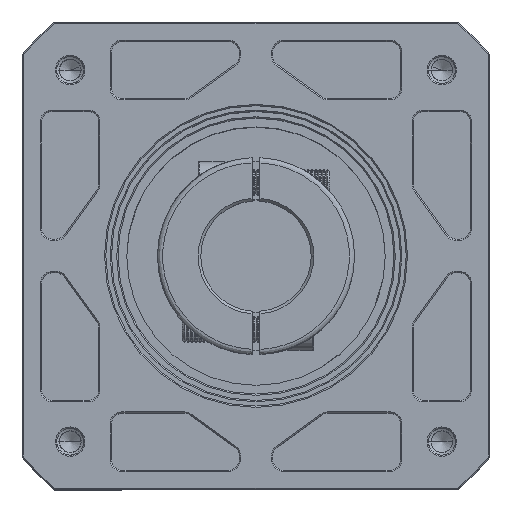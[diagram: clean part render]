
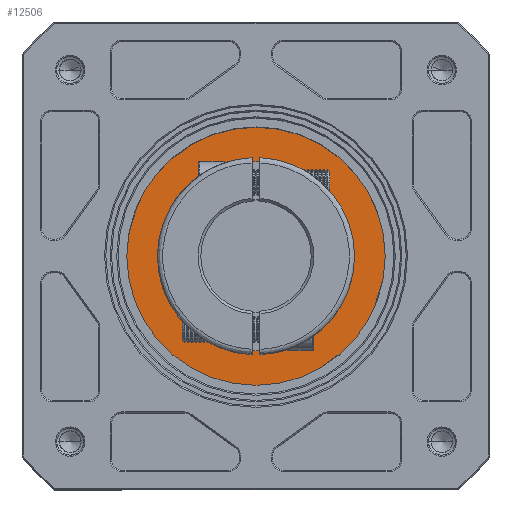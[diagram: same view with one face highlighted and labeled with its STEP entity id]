
A CAD part, top view. The second image highlights one B-rep face of the part: STEP entity #12506.
In plain terms, the highlighted planar face has unit normal (0, 0, 1).
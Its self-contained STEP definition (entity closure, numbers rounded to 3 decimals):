
#591 = FACE_OUTER_BOUND ( 'NONE', #7755, .T. ) ;
#1817 = CARTESIAN_POINT ( 'NONE',  ( -332.693, 63.027, -91.628 ) ) ;
#6933 = CARTESIAN_POINT ( 'NONE',  ( -262.693, 21.287, -91.628 ) ) ;
#7755 = EDGE_LOOP ( 'NONE', ( #113657, #30312, #103494, #24162, #75287, #79747, #111543, #86148 ) ) ;
#10920 = DIRECTION ( 'NONE',  ( -1., 0., 0. ) ) ;
#12506 = ADVANCED_FACE ( 'NONE', ( #591 ), #130608, .T. ) ;
#15803 = CARTESIAN_POINT ( 'NONE',  ( -262.693, 21.287, -91.628 ) ) ;
#19352 = DIRECTION ( 'NONE',  ( -1., 0., 0. ) ) ;
#19771 = CARTESIAN_POINT ( 'NONE',  ( -220.952, 91.287, -91.628 ) ) ;
#22932 = VERTEX_POINT ( 'NONE', #19771 ) ;
#23004 = CARTESIAN_POINT ( 'NONE',  ( -192.693, -20.453, -91.628 ) ) ;
#24162 = ORIENTED_EDGE ( 'NONE', *, *, #63611, .T. ) ;
#29238 = VERTEX_POINT ( 'NONE', #23004 ) ;
#30312 = ORIENTED_EDGE ( 'NONE', *, *, #55936, .T. ) ;
#33614 = DIRECTION ( 'NONE',  ( 0., 0., 1. ) ) ;
#34045 = EDGE_CURVE ( 'NONE', #142934, #56032, #142609, .T. ) ;
#34713 = LINE ( 'NONE', #45885, #110912 ) ;
#35151 = DIRECTION ( 'NONE',  ( -1., 0., 0. ) ) ;
#35692 = DIRECTION ( 'NONE',  ( 0., -1., 0. ) ) ;
#38935 = AXIS2_PLACEMENT_3D ( 'NONE', #90223, #33614, #10920 ) ;
#40427 = VERTEX_POINT ( 'NONE', #67377 ) ;
#45189 = EDGE_CURVE ( 'NONE', #40427, #78487, #53034, .T. ) ;
#45241 = VECTOR ( 'NONE', #19352, 1000. ) ;
#45885 = CARTESIAN_POINT ( 'NONE',  ( -332.693, 21.287, -91.628 ) ) ;
#46954 = CARTESIAN_POINT ( 'NONE',  ( -304.433, 91.287, -91.628 ) ) ;
#47127 = CIRCLE ( 'NONE', #62426, 81.5 ) ;
#50397 = VECTOR ( 'NONE', #135331, 1000. ) ;
#52050 = AXIS2_PLACEMENT_3D ( 'NONE', #15803, #105254, #93219 ) ;
#53034 = CIRCLE ( 'NONE', #38935, 81.5 ) ;
#55936 = EDGE_CURVE ( 'NONE', #56032, #40427, #34713, .T. ) ;
#56032 = VERTEX_POINT ( 'NONE', #1817 ) ;
#58351 = CARTESIAN_POINT ( 'NONE',  ( -262.693, 21.287, -91.628 ) ) ;
#62426 = AXIS2_PLACEMENT_3D ( 'NONE', #6933, #75115, #84347 ) ;
#62480 = LINE ( 'NONE', #101741, #50397 ) ;
#63373 = CARTESIAN_POINT ( 'NONE',  ( -192.693, 21.287, -91.628 ) ) ;
#63611 = EDGE_CURVE ( 'NONE', #78487, #94866, #62480, .T. ) ;
#66824 = EDGE_CURVE ( 'NONE', #22932, #142934, #104024, .T. ) ;
#67377 = CARTESIAN_POINT ( 'NONE',  ( -332.693, -20.453, -91.628 ) ) ;
#74393 = DIRECTION ( 'NONE',  ( 0., 0., 1. ) ) ;
#74962 = CARTESIAN_POINT ( 'NONE',  ( -220.952, -48.713, -91.628 ) ) ;
#75115 = DIRECTION ( 'NONE',  ( 0., 0., 1. ) ) ;
#75287 = ORIENTED_EDGE ( 'NONE', *, *, #117856, .T. ) ;
#78015 = EDGE_CURVE ( 'NONE', #117335, #22932, #123363, .T. ) ;
#78487 = VERTEX_POINT ( 'NONE', #101256 ) ;
#79747 = ORIENTED_EDGE ( 'NONE', *, *, #124876, .T. ) ;
#84211 = CARTESIAN_POINT ( 'NONE',  ( -262.693, 91.287, -91.628 ) ) ;
#84347 = DIRECTION ( 'NONE',  ( -1., 0., 0. ) ) ;
#86148 = ORIENTED_EDGE ( 'NONE', *, *, #66824, .T. ) ;
#90223 = CARTESIAN_POINT ( 'NONE',  ( -262.693, 21.287, -91.628 ) ) ;
#90797 = DIRECTION ( 'NONE',  ( 0., 0., 1. ) ) ;
#93219 = DIRECTION ( 'NONE',  ( 0., 1., 0. ) ) ;
#94866 = VERTEX_POINT ( 'NONE', #74962 ) ;
#101256 = CARTESIAN_POINT ( 'NONE',  ( -304.433, -48.713, -91.628 ) ) ;
#101472 = AXIS2_PLACEMENT_3D ( 'NONE', #58351, #90797, #35151 ) ;
#101741 = CARTESIAN_POINT ( 'NONE',  ( -262.693, -48.713, -91.628 ) ) ;
#102750 = VECTOR ( 'NONE', #130713, 1000. ) ;
#103494 = ORIENTED_EDGE ( 'NONE', *, *, #45189, .T. ) ;
#104024 = LINE ( 'NONE', #84211, #45241 ) ;
#105254 = DIRECTION ( 'NONE',  ( 0., 0., 1. ) ) ;
#110912 = VECTOR ( 'NONE', #35692, 1000. ) ;
#111543 = ORIENTED_EDGE ( 'NONE', *, *, #78015, .T. ) ;
#113657 = ORIENTED_EDGE ( 'NONE', *, *, #34045, .T. ) ;
#117335 = VERTEX_POINT ( 'NONE', #128164 ) ;
#117856 = EDGE_CURVE ( 'NONE', #94866, #29238, #47127, .T. ) ;
#123363 = CIRCLE ( 'NONE', #101472, 81.5 ) ;
#124876 = EDGE_CURVE ( 'NONE', #29238, #117335, #130560, .T. ) ;
#128164 = CARTESIAN_POINT ( 'NONE',  ( -192.693, 63.027, -91.628 ) ) ;
#130560 = LINE ( 'NONE', #63373, #102750 ) ;
#130608 = PLANE ( 'NONE',  #141425 ) ;
#130713 = DIRECTION ( 'NONE',  ( 0., 1., 0. ) ) ;
#135331 = DIRECTION ( 'NONE',  ( 1., 0., 0. ) ) ;
#139910 = DIRECTION ( 'NONE',  ( 1., 0., 0. ) ) ;
#141425 = AXIS2_PLACEMENT_3D ( 'NONE', #141824, #74393, #139910 ) ;
#141824 = CARTESIAN_POINT ( 'NONE',  ( -262.693, 21.287, -91.628 ) ) ;
#142609 = CIRCLE ( 'NONE', #52050, 81.5 ) ;
#142934 = VERTEX_POINT ( 'NONE', #46954 ) ;
